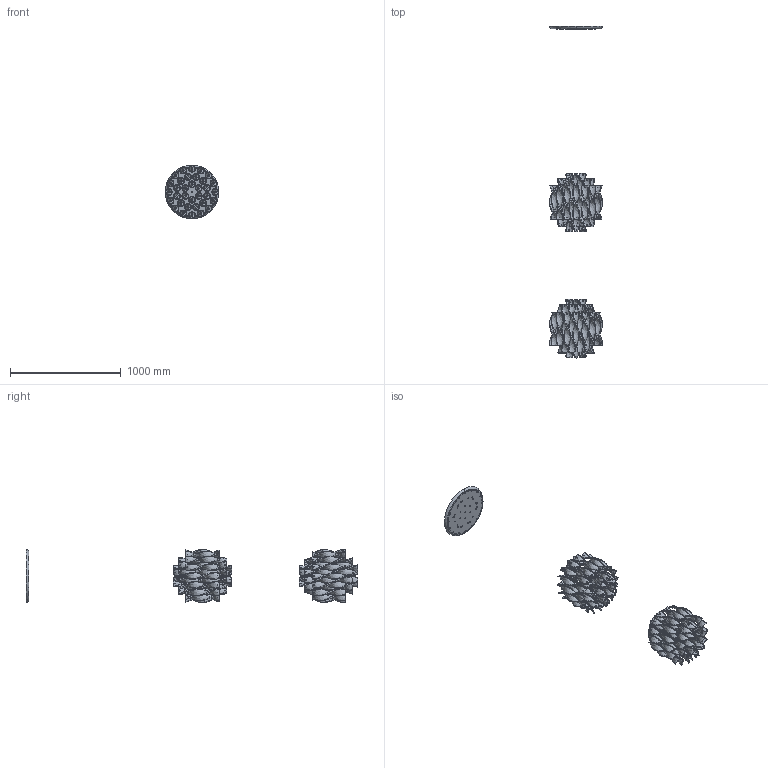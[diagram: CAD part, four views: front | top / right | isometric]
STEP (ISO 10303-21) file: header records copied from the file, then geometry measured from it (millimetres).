
FILE_DESCRIPTION (( 'STEP AP203' ), '1' );
FILE_NAME ('SPAURA45-2-PER 3D.STEP', '2024-05-29T16:17:25', ( '' ), ( '' ), 'SwSTEP 2.0', 'SolidWorks 2024', '' );
FILE_SCHEMA (( 'CONFIG_CONTROL_DESIGN' ));
Length unit declared in the file: millimetre
Products named in the file (9): AURA-VETRO 53 2 FORi; SPAURA45-ROSONE; SPAURA45-2-PER 3D; AURA-VETRO 44 2 FORI; AURA-VETRO 30 1 FORO; AURA-VETRO 30 2 FORi; AURA-VETRO 44 1 FORO; AURA-VETRO 53 1 FORO; CL-0115-XX-AI-00
Assembly tree (70 placements, depth 2):
  SPAURA45-2-PER 3D
    SPAURA45-ROSONE
    CL-0115-XX-AI-00
    AURA-VETRO 30 2 FORi  x16
    AURA-VETRO 30 1 FORO  x16
    AURA-VETRO 44 2 FORI  x12
    AURA-VETRO 53 2 FORi  x6
    AURA-VETRO 44 1 FORO  x12
    AURA-VETRO 53 1 FORO  x6
Bounding box: 484 x 3000 x 484 mm (x, y, z)
Volume: 11289806.3 mm3; surface area: 4276283.2 mm2
Topology: 70 solids, 70 shells, 1001 faces, 2372 edges, 1580 vertices
Faces by surface type: bspline 476, cylinder 308, plane 209, torus 8
Entity records: 19493 total; most frequent: CARTESIAN_POINT 9652, DIRECTION 1578, ORIENTED_EDGE 1396, EDGE_CURVE 698, AXIS2_PLACEMENT_3D 676, VERTEX_POINT 464, EDGE_LOOP 452, CIRCLE 388
